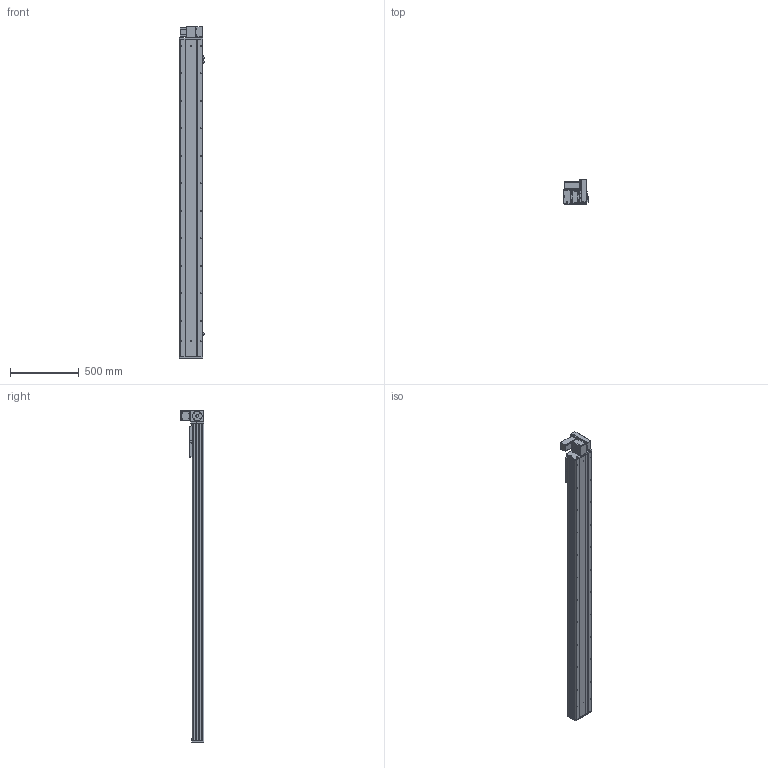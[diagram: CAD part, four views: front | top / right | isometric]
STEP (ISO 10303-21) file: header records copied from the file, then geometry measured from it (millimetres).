
FILE_DESCRIPTION (( 'STEP AP203' ), '1' );
FILE_NAME ('Y170CB-D105-S2000-UR-P400W.STEP', '2020-02-20T05:35:53', ( '微软用户' ), ( '微软中国' ), 'SwSTEP 2.0', 'SolidWorks 2017', '' );
FILE_SCHEMA (( 'CONFIG_CONTROL_DESIGN' ));
Length unit declared in the file: millimetre
Products named in the file (18): Y170CB-D105-S2000-UR-P400W; 0C--雄赽釱俋欶-170; 0B-萇儂楊擘啣; 70CB-詩湍--; san松下电机400不带刹车----; Y100-135俋离換覜ん--; 70CB-掛极-; Y170CB-陔俋离換覜結え---; --70CB --喘謫眊楊擘啣-; Y1埴倛裔; 70CB-耜裔啣-; 17B-耜蚾蟀諉啣----; 70C--詩湍揤踡え-; 00B-俋欶BM--163; 70CB--耜裔; 70B喘謫眊----; 70C-雄赽釱-奻-; B-源倛裔啣
Assembly tree (21 placements, depth 2):
  Y170CB-D105-S2000-UR-P400W
    B-源倛裔啣
    0B-萇儂楊擘啣
    san松下电机400不带刹车----
    70CB-掛极-
    --70CB --喘謫眊楊擘啣-
    70CB-耜裔啣-  x2
    70C--詩湍揤踡え-  x2
    70CB--耜裔
    70C-雄赽釱-奻-
    0C--雄赽釱俋欶-170
    70CB-詩湍--
    Y100-135俋离換覜ん--  x3
    Y170CB-陔俋离換覜結え---
    Y1埴倛裔
    17B-耜蚾蟀諉啣----
    00B-俋欶BM--163
    70B喘謫眊----
Bounding box: 183.5 x 174 x 2416 mm (x, y, z)
Volume: 10476905.8 mm3; surface area: 3777392.8 mm2
Topology: 21 solids, 21 shells, 1047 faces, 2813 edges, 1866 vertices
Faces by surface type: cylinder 561, plane 462, cone 24
Entity records: 33496 total; most frequent: CARTESIAN_POINT 6156, DIRECTION 5450, ORIENTED_EDGE 5108, EDGE_CURVE 2554, AXIS2_PLACEMENT_3D 2008, VERTEX_POINT 1696, LINE 1434, VECTOR 1434
